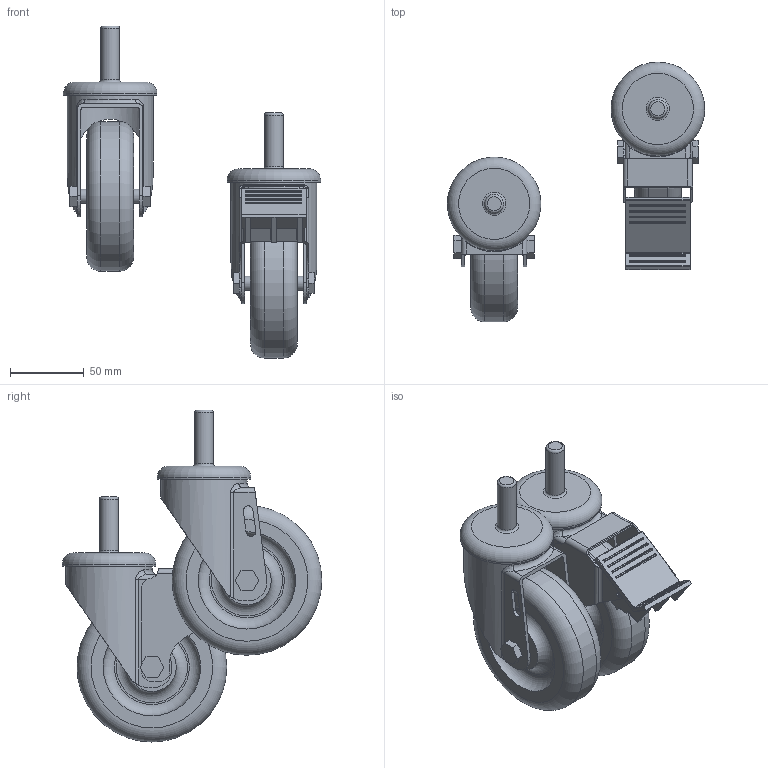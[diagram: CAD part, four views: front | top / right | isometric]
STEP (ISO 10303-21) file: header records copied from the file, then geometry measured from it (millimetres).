
FILE_DESCRIPTION(/* description */ ('Unknown'),/* implementation_level */ '2;1');
FILE_NAME(/* name */ '1425HME',/* time_stamp */ '2018-04-25T08:03:07-04:00',/* author */ ('Unknown'),/* organization */ ('Unknown'),/* preprocessor_version */ 'ST-DEVELOPER v16.7',/* originating_system */ 'DEX',/* authorisation */ $);
FILE_SCHEMA (('AUTOMOTIVE_DESIGN {1 0 10303 214 3 1 1}'));
Length unit declared in the file: millimetre
Products named in the file (8): 1425HME; CAS86258; CAS86258_CHASSIS; CAS86258_WHEEL; CAS86259; CAS86259_LOCK2; CAS86259_LOCK; BUL86260
Assembly tree (9 placements, depth 3):
  1425HME
    CAS86258
      CAS86258_CHASSIS
      CAS86258_WHEEL
    CAS86259
      CAS86258_CHASSIS
      CAS86258_WHEEL
      CAS86259_LOCK2
      CAS86259_LOCK
    BUL86260
Bounding box: 174.56 x 176.14 x 225.25 mm (x, y, z)
Volume: 592660.5 mm3; surface area: 129906.9 mm2
Topology: 6 solids, 6 shells, 410 faces, 992 edges, 610 vertices
Faces by surface type: cylinder 173, plane 157, torus 46, bspline 18, sphere 16
Full cylindrical faces by diameter (mm): 3.175 x3, 7.938 x4, 9.525 x6, 12.7 x2, 58.42 x2, 63.5 x2, 101.6 x2
Entity records: 9821 total; most frequent: CARTESIAN_POINT 1934, DIRECTION 1710, ORIENTED_EDGE 1526, EDGE_CURVE 763, AXIS2_PLACEMENT_3D 661, VERTEX_POINT 479, LINE 388, VECTOR 388
